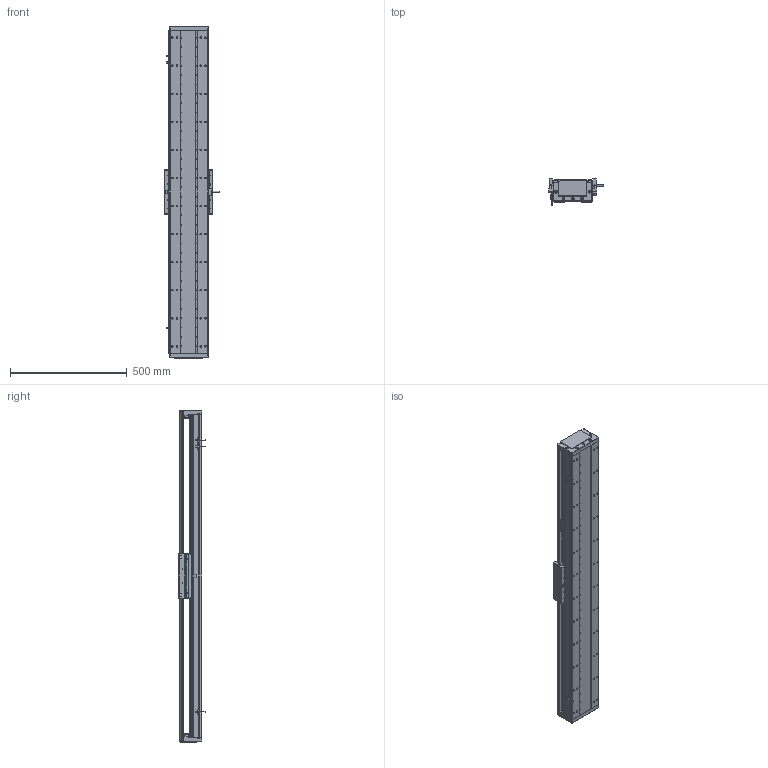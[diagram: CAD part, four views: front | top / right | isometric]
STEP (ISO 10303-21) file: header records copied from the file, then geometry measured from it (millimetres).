
FILE_DESCRIPTION (( 'STEP AP203' ), '1' );
FILE_NAME ('DA-C165-C2-T1140-C010-0.2 直线电机.STEP', '2023-05-11T07:34:33', ( '微软用户' ), ( '微软中国' ), 'SwSTEP 2.0', 'SolidWorks 2019', '' );
FILE_SCHEMA (( 'CONFIG_CONTROL_DESIGN' ));
Length unit declared in the file: millimetre
Products named in the file (15): 复件 六角薄螺母 M3^DA-C165-C2-T-C010-0.2-N 直线电机_GB_FASTENER_NUT_STNAB M3-C; 复件 DA165-GYP-00 光电感应片^DA-C165-C2-T-C010-0.2-N 直线电机; 葩璃 CKM01-W075-TRL^DA-C165-C2-T-C010-0.2-N 眻盄萇儂; IU-CU165-L 菁釱絳寢; 珨极趙賑雄怢啣wf-C2; 复件 DA165-T-002-00 盖板^DA-C165-C2-T-C010-0.2-N 直线电机_0840-002-00; 葩璃 PM-T45^DA-C165-C2-T-C010-0.2-N 眻盄萇儂; DA-C165-C2-T1140-C010-0.2 眻盄萇儂; IU-CU165-L-00 菁釱_L1380; 复件 DA95-HXJ-00 缓冲橡胶^DA-C165-C2-T-C010-0.2-N 直线电机; 复件 DMA-010-0.2 读数头^DA-C165-C2-T-C010-0.2-N 直线电机; 复件 CKM02-W075-C1C2-TP-3.0 一体电机-C2^DA-C165-C2-T-C010-0.2-N 直线电机; 复件 XD-U-02L 磁栅尺^DA-C165-C2-T-C010-0.2-N 直线电机_T; 复件 DA165-DG-H-N-00 端盖^DA-C165-C2-T-C010-0.2-N 直线电机; 葩璃 DA95-GT-T-00^IU-CU165-L 菁釱絳寢_T
Assembly tree (28 placements, depth 3):
  DA-C165-C2-T1140-C010-0.2 眻盄萇儂
    IU-CU165-L 菁釱絳寢
      IU-CU165-L-00 菁釱_L1380
      葩璃 DA95-GT-T-00^IU-CU165-L 菁釱絳寢_T  x4
    复件 DA165-DG-H-N-00 端盖^DA-C165-C2-T-C010-0.2-N 直线电机  x2
    复件 DA95-HXJ-00 缓冲橡胶^DA-C165-C2-T-C010-0.2-N 直线电机  x4
    复件 DA165-T-002-00 盖板^DA-C165-C2-T-C010-0.2-N 直线电机_0840-002-00
    复件 XD-U-02L 磁栅尺^DA-C165-C2-T-C010-0.2-N 直线电机_T
    葩璃 PM-T45^DA-C165-C2-T-C010-0.2-N 眻盄萇儂  x3
    葩璃 CKM01-W075-TRL^DA-C165-C2-T-C010-0.2-N 眻盄萇儂
    复件 DA165-GYP-00 光电感应片^DA-C165-C2-T-C010-0.2-N 直线电机
    复件 DMA-010-0.2 读数头^DA-C165-C2-T-C010-0.2-N 直线电机
    复件 CKM02-W075-C1C2-TP-3.0 一体电机-C2^DA-C165-C2-T-C010-0.2-N 直线电机
    复件 六角薄螺母 M3^DA-C165-C2-T-C010-0.2-N 直线电机_GB_FASTENER_NUT_STNAB M3-C  x6
    珨极趙賑雄怢啣wf-C2
Bounding box: 233 x 111.45 x 1420 mm (x, y, z)
Volume: 9729249.1 mm3; surface area: 2722280.3 mm2
Topology: 66 solids, 66 shells, 3264 faces, 9148 edges, 5775 vertices
Faces by surface type: cylinder 1727, plane 1073, cone 406, torus 54, sphere 4
Entity records: 102185 total; most frequent: CARTESIAN_POINT 25070, DIRECTION 15790, ORIENTED_EDGE 15770, EDGE_CURVE 7885, AXIS2_PLACEMENT_3D 5953, VERTEX_POINT 5111, VECTOR 3884, LINE 3884
